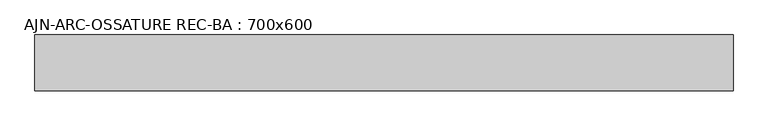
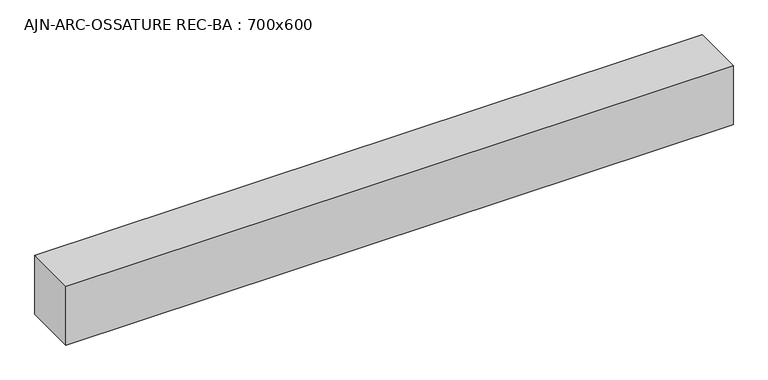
"""IFC4 building model written with IfcOpenShell, lengths in millimetres: beam geometry, AJN-ARC-OSSATURE REC-BA : 700x600."""

from ifc_helpers import new_model, si_unit, frame, origin, place, context, project, spatial, polyline, outline, extrude, source, transform, mapped, element, save


def ajn_arc_ossature_rec_ba_700x600_8ca6ddb6(model_context):
    return source(origin(), model_context, "Body", "SweptSolid", [
        extrude(outline(polyline([(3900.0, 300.0), (3900.0, -300.0), (-3587.3, -300.0), (-3587.3, 300.0), (3900.0, 300.0)])), frame((0.0, 0.0, -350.0), z_axis=(0.0, 0.0, 1.0), x_axis=(1.0, 0.0, 0.0)), (0.0, 0.0, 1.0), 700.0),
    ])


if __name__ == "__main__":
    model = new_model("IFC4")
    model_context = context("Model", 3, world=origin())
    ifc_project = project(units=[si_unit("LENGTHUNIT", "METRE", prefix="MILLI")], contexts=[model_context])
    site = spatial("IfcSite", under=ifc_project)
    building = spatial("IfcBuilding", under=site)
    placement = place(None, origin())
    ajn_arc_ossature_rec_ba_700x600_shape = ajn_arc_ossature_rec_ba_700x600_8ca6ddb6(model_context)
    element("IfcBeam", 1, ObjectType="AJN-ARC-OSSATURE REC-BA : 700x600", at=placement, inside=building, context=model_context, shape_type="MappedRepresentation", body=[
        mapped(ajn_arc_ossature_rec_ba_700x600_shape, transform((0.0, 0.0, 0.0), x_axis=(1.0, 0.0, 0.0), y_axis=(0.0, 1.0, 0.0), z_axis=(0.0, 0.0, 1.0))),
    ])
    save(model, "model.ifc")
